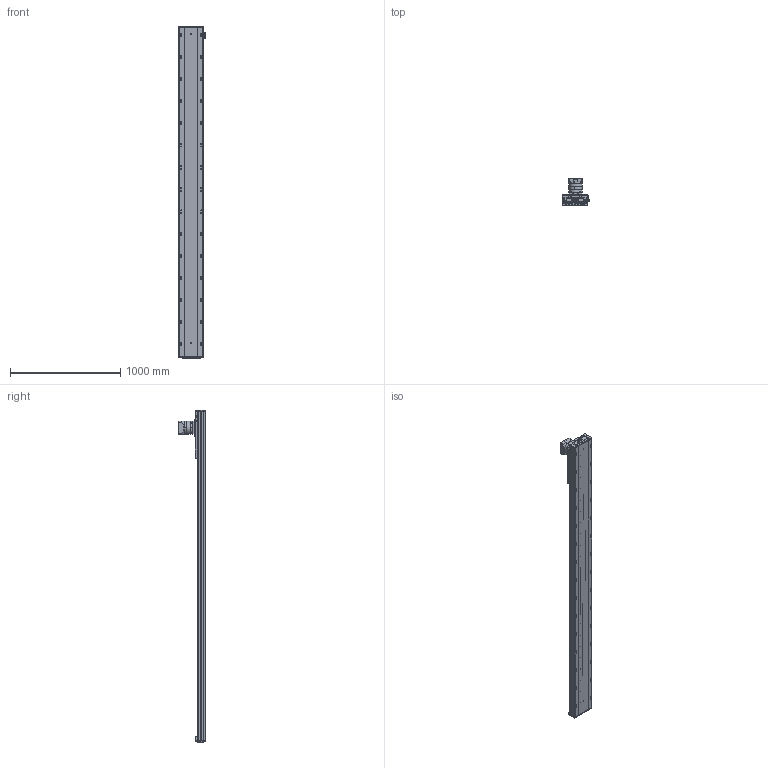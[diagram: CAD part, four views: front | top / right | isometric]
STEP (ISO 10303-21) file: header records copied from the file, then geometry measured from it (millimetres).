
FILE_DESCRIPTION (( 'STEP AP203' ), '1' );
FILE_NAME ('RY220-C-300-UK.SLDASM_2500.step', '2022-08-01T06:00:13', ( '' ), ( '' ), 'SwSTEP 2.0', 'SolidWorks 2016', '' );
FILE_SCHEMA (( 'CONFIG_CONTROL_DESIGN' ));
Length unit declared in the file: millimetre
Products named in the file (10): 滅袉蝶輸ㄗG412隅秶ㄘ; RY220喘沭賑輸; 覜茼ん674; RY220菁釱MK-300_2500; RY220-C-300-UK.SLDASM_2500; RY220喘沭綴裔啣; RY140直线电机感应器674光电安装座; PF115L1-S2-22-58-110-145-M8; RY220喘沭俋离覜茼え; RY220-齿条模组电机安装板
Assembly tree (12 placements, depth 2):
  RY220-C-300-UK.SLDASM_2500
    RY220菁釱MK-300_2500
    RY220喘沭賑輸
    RY220-齿条模组电机安装板
    PF115L1-S2-22-58-110-145-M8
    RY220喘沭綴裔啣  x2
    滅袉蝶輸ㄗG412隅秶ㄘ  x2
    RY140直线电机感应器674光电安装座
    覜茼ん674  x2
    RY220喘沭俋离覜茼え
Bounding box: 247 x 244.5 x 3009 mm (x, y, z)
Volume: 20469305.6 mm3; surface area: 4195603.9 mm2
Topology: 18 solids, 26 shells, 2316 faces, 6235 edges, 3898 vertices
Faces by surface type: cylinder 1119, plane 751, cone 284, bspline 162
Entity records: 73549 total; most frequent: CARTESIAN_POINT 19958, DIRECTION 11075, ORIENTED_EDGE 10802, EDGE_CURVE 5401, AXIS2_PLACEMENT_3D 4243, VERTEX_POINT 3524, EDGE_LOOP 2705, LINE 2589
